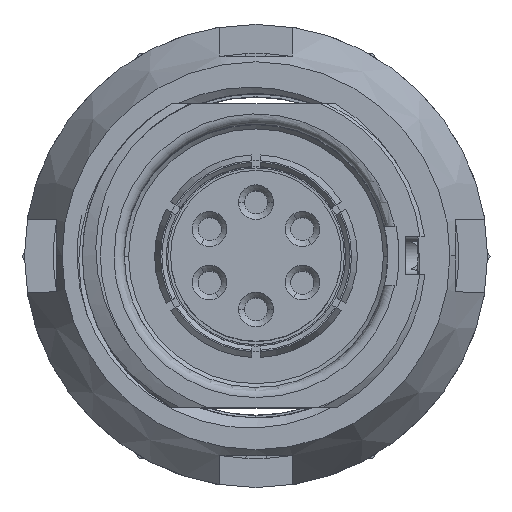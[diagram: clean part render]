
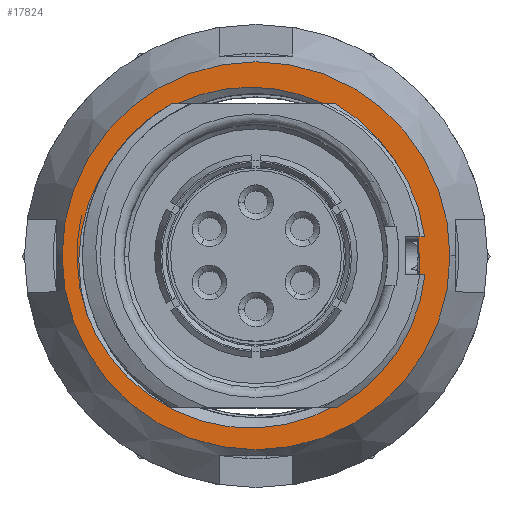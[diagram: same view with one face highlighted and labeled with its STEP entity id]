
A CAD part, top view. The second image highlights one B-rep face of the part: STEP entity #17824.
In plain terms, the highlighted planar face has unit normal (0, 0, 1).
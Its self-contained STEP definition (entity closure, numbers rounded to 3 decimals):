
#305=CARTESIAN_POINT('',(2.326,5.25,0.2));
#5607=CARTESIAN_POINT('',(0.,0.,0.2));
#5608=DIRECTION('',(0.,0.,-1.));
#5609=DIRECTION('',(-1.,0.,0.));
#5610=AXIS2_PLACEMENT_3D('',#5607,#5608,#5609);
#5612=CARTESIAN_POINT('',(0.,0.,0.2));
#5613=DIRECTION('',(0.,0.,-1.));
#5614=DIRECTION('',(0.,1.,0.));
#5615=AXIS2_PLACEMENT_3D('',#5612,#5613,#5614);
#5617=CARTESIAN_POINT('',(0.,0.,0.2));
#5618=DIRECTION('',(0.,0.,-1.));
#5619=DIRECTION('',(1.,0.,0.));
#5620=AXIS2_PLACEMENT_3D('',#5617,#5618,#5619);
#5622=CARTESIAN_POINT('',(0.,0.,0.2));
#5623=DIRECTION('',(0.,0.,-1.));
#5624=DIRECTION('',(0.,-1.,0.));
#5625=AXIS2_PLACEMENT_3D('',#5622,#5623,#5624);
#5627=CARTESIAN_POINT('',(0.,0.,0.2));
#5628=DIRECTION('',(0.,0.,1.));
#5629=DIRECTION('',(-0.484,0.875,0.));
#5630=AXIS2_PLACEMENT_3D('',#5627,#5628,#5629);
#5632=DIRECTION('',(1.,0.,0.));
#5633=VECTOR('',#5632,0.083);
#5634=CARTESIAN_POINT('',(5.593,0.65,0.2));
#5635=LINE('',#5634,#5633);
#5636=DIRECTION('',(-1.,0.,0.));
#5637=VECTOR('',#5636,0.409);
#5638=CARTESIAN_POINT('',(2.735,5.25,0.2));
#5639=LINE('',#5638,#5637);
#5640=DIRECTION('',(-1.,0.,0.));
#5641=VECTOR('',#5640,0.186);
#5642=CARTESIAN_POINT('',(-2.718,5.25,
0.2));
#5643=LINE('',#5642,#5641);
#5847=CARTESIAN_POINT('',(5.593,0.65,0.2));
#5848=CARTESIAN_POINT('',(5.638,0.35,
0.2));
#5849=CARTESIAN_POINT('',(5.679,-0.252,0.2));
#5850=CARTESIAN_POINT('',(5.594,-1.18,
0.2));
#5851=CARTESIAN_POINT('',(5.355,-2.091,
0.2));
#5852=CARTESIAN_POINT('',(4.972,-2.944,
0.2));
#5853=CARTESIAN_POINT('',(4.452,-3.735,
0.2));
#5854=CARTESIAN_POINT('',(3.8,-4.438,
0.2));
#5855=CARTESIAN_POINT('',(3.03,-5.031,
0.2));
#5856=CARTESIAN_POINT('',(2.19,-5.483,
0.2));
#5857=CARTESIAN_POINT('',(1.289,-5.793,
0.2));
#5858=CARTESIAN_POINT('',(0.339,-5.956,
0.2));
#5859=CARTESIAN_POINT('',(-0.623,-5.963,
0.2));
#5860=CARTESIAN_POINT('',(-1.559,-5.819,
0.2));
#5861=CARTESIAN_POINT('',(-2.48,-5.527,
0.2));
#5862=CARTESIAN_POINT('',(-3.369,-5.071,
0.2));
#5863=CARTESIAN_POINT('',(-4.146,-4.497,
0.2));
#5864=CARTESIAN_POINT('',(-4.841,-3.793,
0.2));
#5865=CARTESIAN_POINT('',(-5.417,-2.974,
0.2));
#5866=CARTESIAN_POINT('',(-5.706,-2.379,
0.2));
#5867=CARTESIAN_POINT('',(-5.828,-2.066,
0.2));
#5967=CARTESIAN_POINT('',(-5.828,-2.066,
0.2));
#5968=CARTESIAN_POINT('',(-5.918,-1.786,
0.2));
#5969=CARTESIAN_POINT('',(-6.056,-1.221,
0.2));
#5970=CARTESIAN_POINT('',(-6.14,-0.351,
0.2));
#5971=CARTESIAN_POINT('',(-6.102,0.518,
0.2));
#5972=CARTESIAN_POINT('',(-5.938,1.382,
0.2));
#5973=CARTESIAN_POINT('',(-5.657,2.199,
0.2));
#5974=CARTESIAN_POINT('',(-5.262,2.97,
0.2));
#5975=CARTESIAN_POINT('',(-4.764,3.671,
0.2));
#5976=CARTESIAN_POINT('',(-4.377,4.08,
0.2));
#5977=CARTESIAN_POINT('',(-4.169,4.27,
0.2));
#5979=CARTESIAN_POINT('',(-2.718,5.25,
0.2));
#5980=CARTESIAN_POINT('',(-2.452,5.377,
0.2));
#5981=CARTESIAN_POINT('',(-1.91,5.588,
0.2));
#5982=CARTESIAN_POINT('',(-1.057,5.781,
0.2));
#5983=CARTESIAN_POINT('',(-0.198,5.846,
0.2));
#5984=CARTESIAN_POINT('',(0.681,5.781,
0.2));
#5985=CARTESIAN_POINT('',(1.531,5.586,0.2));
#5986=CARTESIAN_POINT('',(2.065,5.376,0.2));
#5987=CARTESIAN_POINT('',(2.326,5.25,0.2));
#7507=CARTESIAN_POINT('',(-4.169,4.27,
0.2));
#7508=CARTESIAN_POINT('',(-4.107,4.336,
0.2));
#7509=CARTESIAN_POINT('',(-3.98,4.464,
0.2));
#7510=CARTESIAN_POINT('',(-3.782,4.647,
0.2));
#7511=CARTESIAN_POINT('',(-3.642,4.764,
0.2));
#7512=CARTESIAN_POINT('',(-3.572,4.821,
0.2));
#7837=CARTESIAN_POINT('',(2.735,5.25,0.2));
#7838=CARTESIAN_POINT('',(3.016,5.091,0.2));
#7839=CARTESIAN_POINT('',(3.543,4.734,0.2));
#7840=CARTESIAN_POINT('',(4.236,4.073,0.2));
#7841=CARTESIAN_POINT('',(4.802,3.328,0.2));
#7842=CARTESIAN_POINT('',(5.254,2.481,0.2));
#7843=CARTESIAN_POINT('',(5.553,1.583,0.2));
#7844=CARTESIAN_POINT('',(5.652,0.965,
0.2));
#7845=CARTESIAN_POINT('',(5.676,0.65,0.2));
#9454=VERTEX_POINT('',#305);
#9455=CARTESIAN_POINT('',(2.735,5.25,0.2));
#9456=VERTEX_POINT('',#9455);
#9465=CARTESIAN_POINT('',(-2.905,5.25,0.2));
#9466=VERTEX_POINT('',#9465);
#9467=CARTESIAN_POINT('',(-2.718,5.25,
0.2));
#9468=VERTEX_POINT('',#9467);
#10027=CARTESIAN_POINT('',(6.7,0.,
0.2));
#10028=VERTEX_POINT('',#10027);
#10029=CARTESIAN_POINT('',(0.,6.7,0.2));
#10030=VERTEX_POINT('',#10029);
#10031=CARTESIAN_POINT('',(-6.7,0.,0.2));
#10032=VERTEX_POINT('',#10031);
#10033=CARTESIAN_POINT('',(0.,-6.7,0.2));
#10034=VERTEX_POINT('',#10033);
#10035=CARTESIAN_POINT('',(-3.573,4.82,0.2));
#10036=VERTEX_POINT('',#10035);
#10037=VERTEX_POINT('',#7507);
#10038=VERTEX_POINT('',#5967);
#10039=VERTEX_POINT('',#5847);
#10040=CARTESIAN_POINT('',(5.676,0.65,0.2));
#10041=VERTEX_POINT('',#10040);
#17795=CARTESIAN_POINT('',(0.,0.,0.2));
#17796=DIRECTION('',(0.,0.,1.));
#17797=DIRECTION('',(-1.,0.,0.));
#17798=AXIS2_PLACEMENT_3D('',#17795,#17796,#17797);
#17799=PLANE('',#17798);
#17800=ORIENTED_EDGE('',*,*,#17763,.T.);
#17801=ORIENTED_EDGE('',*,*,#17761,.T.);
#17802=ORIENTED_EDGE('',*,*,#17780,.T.);
#17803=ORIENTED_EDGE('',*,*,#17778,.T.);
#17804=EDGE_LOOP('',(#17800,#17801,#17802,#17803));
#17805=FACE_OUTER_BOUND('',#17804,.F.);
#17807=ORIENTED_EDGE('',*,*,#17806,.T.);
#17809=ORIENTED_EDGE('',*,*,#17808,.F.);
#17811=ORIENTED_EDGE('',*,*,#17810,.F.);
#17813=ORIENTED_EDGE('',*,*,#17812,.F.);
#17815=ORIENTED_EDGE('',*,*,#17814,.T.);
#17817=ORIENTED_EDGE('',*,*,#17816,.F.);
#17818=ORIENTED_EDGE('',*,*,#10987,.T.);
#17820=ORIENTED_EDGE('',*,*,#17819,.F.);
#17821=ORIENTED_EDGE('',*,*,#11005,.T.);
#17822=EDGE_LOOP('',(#17807,#17809,#17811,#17813,#17815,#17817,#17818,#17820,
#17821));
#17823=FACE_BOUND('',#17822,.F.);
#17824=ADVANCED_FACE('',(#17805,#17823),#17799,.T.);
#5611=CIRCLE('',#5610,6.7);
#5616=CIRCLE('',#5615,6.7);
#5621=CIRCLE('',#5620,6.7);
#5626=CIRCLE('',#5625,6.7);
#5631=CIRCLE('',#5630,6.);
#5868=B_SPLINE_CURVE_WITH_KNOTS('',3,(#5847,#5848,#5849,#5850,#5851,#5852,#5853,
#5854,#5855,#5856,#5857,#5858,#5859,#5860,#5861,#5862,#5863,#5864,#5865,#5866,
#5867),.UNSPECIFIED.,.F.,.F.,(4,1,1,1,1,1,1,1,1,1,1,1,1,1,1,1,1,1,4),(0.,
0.056,0.111,0.167,0.222,
0.278,0.333,0.389,0.444,0.5,
0.556,0.611,0.667,0.722,
0.778,0.833,0.889,0.944,1.),
.UNSPECIFIED.);
#5978=B_SPLINE_CURVE_WITH_KNOTS('',3,(#5967,#5968,#5969,#5970,#5971,#5972,#5973,
#5974,#5975,#5976,#5977),.UNSPECIFIED.,.F.,.F.,(4,1,1,1,1,1,1,1,4),(0.,
0.125,0.25,0.375,0.5,0.625,0.75,0.875,1.),.UNSPECIFIED.);
#5988=B_SPLINE_CURVE_WITH_KNOTS('',3,(#5979,#5980,#5981,#5982,#5983,#5984,#5985,
#5986,#5987),.UNSPECIFIED.,.F.,.F.,(4,1,1,1,1,1,4),(0.,0.167,
0.333,0.5,0.667,0.833,1.),
.UNSPECIFIED.);
#7513=B_SPLINE_CURVE_WITH_KNOTS('',3,(#7507,#7508,#7509,#7510,#7511,#7512),
.UNSPECIFIED.,.F.,.F.,(4,1,1,4),(0.,0.333,0.667,1.),
.UNSPECIFIED.);
#7846=B_SPLINE_CURVE_WITH_KNOTS('',3,(#7837,#7838,#7839,#7840,#7841,#7842,#7843,
#7844,#7845),.UNSPECIFIED.,.F.,.F.,(4,1,1,1,1,1,4),(0.,0.167,
0.333,0.5,0.667,0.833,1.),
.UNSPECIFIED.);
#10987=EDGE_CURVE('',#9456,#9454,#5639,.T.);
#11005=EDGE_CURVE('',#9468,#9466,#5643,.T.);
#17761=EDGE_CURVE('',#10030,#10028,#5616,.T.);
#17763=EDGE_CURVE('',#10032,#10030,#5611,.T.);
#17778=EDGE_CURVE('',#10034,#10032,#5626,.T.);
#17780=EDGE_CURVE('',#10028,#10034,#5621,.T.);
#17806=EDGE_CURVE('',#9466,#10036,#5631,.T.);
#17808=EDGE_CURVE('',#10037,#10036,#7513,.T.);
#17810=EDGE_CURVE('',#10038,#10037,#5978,.T.);
#17812=EDGE_CURVE('',#10039,#10038,#5868,.T.);
#17814=EDGE_CURVE('',#10039,#10041,#5635,.T.);
#17816=EDGE_CURVE('',#9456,#10041,#7846,.T.);
#17819=EDGE_CURVE('',#9468,#9454,#5988,.T.);
